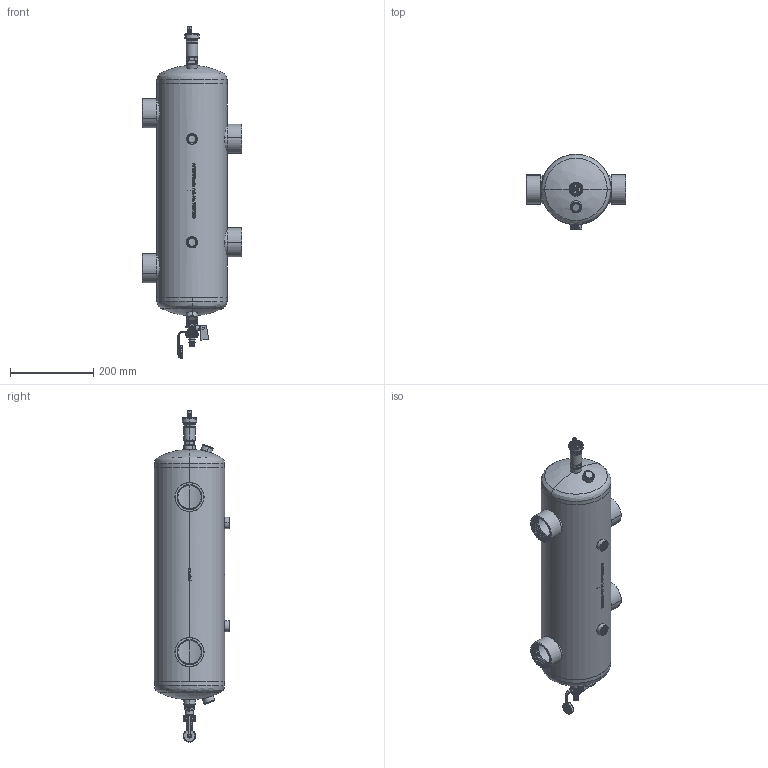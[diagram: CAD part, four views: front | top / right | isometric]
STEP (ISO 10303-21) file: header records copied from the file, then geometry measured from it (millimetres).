
FILE_DESCRIPTION (( 'STEP AP214' ), '1' );
FILE_NAME ('BLH822_sprzeglo_hydrauliczne_9082210_0_3D_AFRISO.STEP', '2022-08-03T12:07:17', ( '' ), ( '' ), 'SwSTEP 2.0', 'SolidWorks 2022', '' );
FILE_SCHEMA (( 'AUTOMOTIVE_DESIGN' ));
Length unit declared in the file: millimetre
Products named in the file (32): BLH822_sprzeglo_hydrauliczne_9082210_0_3D_AFRISO; GEH_USE; 801 014 1780_O-Ring  _X_F814x1.78 mm EPDM; 760 000 0169_Quellscheibe _X_F87x_X_F82,5x0,5; F135_2; HALTELASCHE; Feder_Baugruppe; 77219_air-vent_MV-R12; FLACHDICHTUNG; SPINDEL; F135; 801 024 2002_O-Ring  _X_F824.00x2.00mm EPDM; T_LLE; 05 00 280034_Schraubkappe SE Aquastop; GEWINDEDICHTRING G1_2; GEWINDERING G1_2; KFE_HAHN G1_2 PTFE; Część3^BLH822_C3324; _X_DCberwurfmutter M32x1,5_05 00 210014; F356; GRIFF; DECKEL G3_4; 05 00 280011_Deckel Schnellentl_X_FCfter; C3324T; Geh_X_E4use Schnellentl_X_FCfter_05 00 210013; F59; DECKEL0G304; 42407; MUTTER G3_4; 05 00 280024_Vierkantzuschn. 6,5x1,4 L=5,2mm Silikon; 05 00 250320_Ventilgeh_X_E4use MV G3_8ixR1_2a SW22x20_ Ms; Schnellentl_X_FCfter MS G3_8 Aquastop_05 00 21 13
Assembly tree (48 placements, depth 5):
  BLH822_sprzeglo_hydrauliczne_9082210_0_3D_AFRISO
    C3324T
    F356  x4
    F59  x6
    F135
    F135_2
    77219_air-vent_MV-R12
      Schnellentl_X_FCfter MS G3_8 Aquastop_05 00 21 13
        801 024 2002_O-Ring  _X_F824.00x2.00mm EPDM
        Feder_Baugruppe
          05 00 280024_Vierkantzuschn. 6,5x1,4 L=5,2mm Silikon
        _X_DCberwurfmutter M32x1,5_05 00 210014
        801 014 1780_O-Ring  _X_F814x1.78 mm EPDM
        760 000 0169_Quellscheibe _X_F87x_X_F82,5x0,5  x9
        Geh_X_E4use Schnellentl_X_FCfter_05 00 210013
        05 00 280011_Deckel Schnellentl_X_FCfter
        05 00 280034_Schraubkappe SE Aquastop
      05 00 250320_Ventilgeh_X_E4use MV G3_8ixR1_2a SW22x20_ Ms
    42407
      KFE_HAHN G1_2 PTFE
        SPINDEL
        GEWINDEDICHTRING G1_2
        GEWINDERING G1_2
        GRIFF
        T_LLE
        MUTTER G3_4
        GEH_USE
        HALTELASCHE
        DECKEL G3_4
        DECKEL0G304
          FLACHDICHTUNG
    Część3^BLH822_C3324  x2
Bounding box: 238.3 x 180.3 x 796.49 mm (x, y, z)
Volume: 1291353.2 mm3; surface area: 817789.8 mm2
Topology: 42 solids, 42 shells, 3661 faces, 9433 edges, 6078 vertices
Faces by surface type: cylinder 1251, plane 1234, bspline 613, cone 551, torus 12
Entity records: 151992 total; most frequent: CARTESIAN_POINT 53045, ORIENTED_EDGE 15998, DIRECTION 12752, EDGE_CURVE 7999, VERTEX_POINT 5140, AXIS2_PLACEMENT_3D 4788, EDGE_LOOP 3405, LINE 3176
